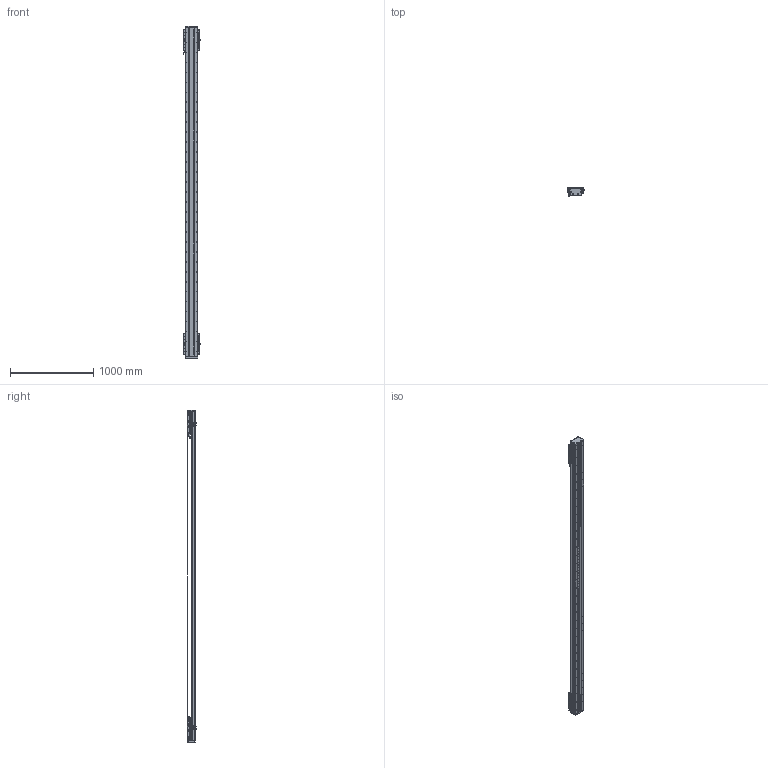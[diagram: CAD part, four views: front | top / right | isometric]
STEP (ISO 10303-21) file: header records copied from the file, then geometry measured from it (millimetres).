
FILE_DESCRIPTION (( 'STEP AP203' ), '1' );
FILE_NAME ('DA-C145-2-C3-T3380-C010-0.2 眻盄萇儂.STEP', '2025-08-14T00:41:28', ( '' ), ( '' ), 'SwSTEP 2.0', 'SolidWorks 2019', '' );
FILE_SCHEMA (( 'CONFIG_CONTROL_DESIGN' ));
Length unit declared in the file: millimetre
Products named in the file (38): 葩璃 DA145-C3-DP-B-00 菜えB^CU145-W 幗紩賑怢; TAY01-M8; 葩璃 PM-T45^DA-C145-2-C3-T-C010-0.2; 葩璃 CU145 詩湍郪璃^DA-C145-2-C3-T-C010-0.2; 复件 DA145-C3-YB-B-00 压板B^CU145-W 滚珠滑台; 葩璃 CKM03-W060-C1C2-TP-0.2^DA-C145-2-C3-T-C010-0.2; 复件 DA145-DG 钢带端盖^复件 CU145 钢带组件_DA-C145-2-C3-T-C010-0.2; 复件 DA145-C3-DK-00 挡块^CU145-W 滚珠滑台; 葩璃 DMA-010-0.2 黍杅芛^DA-C145-2-C3-T-C010-0.2; 复件 DA95-HK-GT-00 滑块钢轨^CU145-W-00 一体化滑动台板; 复件 DA95-DB-00  挡板^CU145-W 滚珠滑台; CU145-W 幗紩賑怢; 葩璃 DA145-C3-DP-A-00 菜えA^CU145-W 幗紩賑怢; 葩璃 DA95-GT-T-00^IU-CU145-L 菁釱絳寢; 复件 DA145-C3-YB-A-00 压板A^CU145-W 滚珠滑台; DA-C145-2-C3-T3380-C010-0.2 眻盄萇儂; CU145-W-00 珨极趙賑雄怢啣; DKW-KGZ-ZJ-00 中间光电开关支架; 复件 DA145-GYP-00 光电感应片^DA-C145-2-C3-T-C010-0.2; 葩璃 PM-Y65^DA-C145-2-C3-T-C010-0.2; IU-CU145-L-00 菁釱(L3960); DKW168-HXJ-ZJ-00 笢潔滅袉砎蝶; CU145-W 幗紩賑怢-1; CU145-W-00 珨极趙賑雄怢啣-1; 66245-CU145-HT-W-00 賑雄怢啣(3D芞祧)(00); 复件 半圆头内六角螺钉 M3×6^CU145-W 滚珠滑台; 复件 DA95-MFP-01 密封片^CU145-W 滚珠滑台; 复件 DA146 钢带垫块^复件 CU145 钢带组件_DA-C145-2-C3-T-C010-0.2; 复件 DA146 钢带拉块^复件 CU145 钢带组件_DA-C145-2-C3-T-C010-0.2; 复件 DA145 钢带^复件 CU145 钢带组件_DA-C145-2-C3-T-C010-0.2; 葩璃 鞠褒情蹟譫 M3^DA-C145-2-C3-T-C010-0.2; 葩璃 DA95-HXJ-00 遣喳砎蝶^DA-C145-2-C3-T-C010-0.2; 葩璃 CKMA01-W060-TRL^DA-C145-2-C3-T-C010-0.2; IU-CU145-L 菁釱絳寢; DKW-GYP-ZJ-00 笢潔嫖萇覜茼え; 复件 纯铜油杯 6x6mm^CU145-W 滚珠滑台; 复件 内六角平端紧定螺钉 GB.T77-2000 M5×10^CU145-W 滚珠滑台; 葩璃 XD-U-02L 棠掑喜^DA-C145-2-C3-T-C010-0.2
Assembly tree (180 placements, depth 4):
  DA-C145-2-C3-T3380-C010-0.2 眻盄萇儂
    IU-CU145-L 菁釱絳寢
      IU-CU145-L-00 菁釱(L3960)
      葩璃 DA95-GT-T-00^IU-CU145-L 菁釱絳寢  x4
    葩璃 CU145 詩湍郪璃^DA-C145-2-C3-T-C010-0.2
      复件 DA145-DG 钢带端盖^复件 CU145 钢带组件_DA-C145-2-C3-T-C010-0.2  x2
      复件 DA146 钢带拉块^复件 CU145 钢带组件_DA-C145-2-C3-T-C010-0.2  x2
      复件 DA146 钢带垫块^复件 CU145 钢带组件_DA-C145-2-C3-T-C010-0.2  x2
      复件 DA145 钢带^复件 CU145 钢带组件_DA-C145-2-C3-T-C010-0.2
    CU145-W 幗紩賑怢
      CU145-W-00 珨极趙賑雄怢啣
        66245-CU145-HT-W-00 賑雄怢啣(3D芞祧)(00)
        复件 DA95-HK-GT-00 滑块钢轨^CU145-W-00 一体化滑动台板  x8
      复件 DA95-MFP-01 密封片^CU145-W 滚珠滑台  x8
      复件 DA95-DB-00  挡板^CU145-W 滚珠滑台  x8
      复件 内六角平端紧定螺钉 GB.T77-2000 M5×10^CU145-W 滚珠滑台  x4
      复件 纯铜油杯 6x6mm^CU145-W 滚珠滑台  x4
      复件 半圆头内六角螺钉 M3×6^CU145-W 滚珠滑台  x16
      复件 DA145-C3-DK-00 挡块^CU145-W 滚珠滑台  x4
      葩璃 DA145-C3-DP-B-00 菜えB^CU145-W 幗紩賑怢  x2
      复件 DA145-C3-YB-B-00 压板B^CU145-W 滚珠滑台  x2
      葩璃 DA145-C3-DP-A-00 菜えA^CU145-W 幗紩賑怢  x3
      复件 DA145-C3-YB-A-00 压板A^CU145-W 滚珠滑台  x3
      TAY01-M8  x4
    CU145-W 幗紩賑怢-1
      CU145-W-00 珨极趙賑雄怢啣-1
        66245-CU145-HT-W-00 賑雄怢啣(3D芞祧)(00)
        复件 DA95-HK-GT-00 滑块钢轨^CU145-W-00 一体化滑动台板  x8
      复件 DA95-MFP-01 密封片^CU145-W 滚珠滑台  x8
      复件 DA95-DB-00  挡板^CU145-W 滚珠滑台  x8
      复件 内六角平端紧定螺钉 GB.T77-2000 M5×10^CU145-W 滚珠滑台  x4
      复件 纯铜油杯 6x6mm^CU145-W 滚珠滑台  x4
      复件 半圆头内六角螺钉 M3×6^CU145-W 滚珠滑台  x16
      复件 DA145-C3-DK-00 挡块^CU145-W 滚珠滑台  x4
      葩璃 DA145-C3-DP-B-00 菜えB^CU145-W 幗紩賑怢  x2
      复件 DA145-C3-YB-B-00 压板B^CU145-W 滚珠滑台  x2
      葩璃 DA145-C3-DP-A-00 菜えA^CU145-W 幗紩賑怢  x3
      复件 DA145-C3-YB-A-00 压板A^CU145-W 滚珠滑台  x3
      TAY01-M8  x4
    葩璃 CKMA01-W060-TRL^DA-C145-2-C3-T-C010-0.2
    葩璃 PM-T45^DA-C145-2-C3-T-C010-0.2  x4
    葩璃 XD-U-02L 棠掑喜^DA-C145-2-C3-T-C010-0.2
    葩璃 DA95-HXJ-00 遣喳砎蝶^DA-C145-2-C3-T-C010-0.2  x4
    葩璃 CKM03-W060-C1C2-TP-0.2^DA-C145-2-C3-T-C010-0.2  x2
    葩璃 DMA-010-0.2 黍杅芛^DA-C145-2-C3-T-C010-0.2  x2
    复件 DA145-GYP-00 光电感应片^DA-C145-2-C3-T-C010-0.2  x2
    DKW-GYP-ZJ-00 笢潔嫖萇覜茼え
    DKW-KGZ-ZJ-00 中间光电开关支架
    葩璃 PM-Y65^DA-C145-2-C3-T-C010-0.2
    葩璃 鞠褒情蹟譫 M3^DA-C145-2-C3-T-C010-0.2  x8
    DKW168-HXJ-ZJ-00 笢潔滅袉砎蝶
Bounding box: 213.7 x 108.45 x 3996 mm (x, y, z)
Volume: 19571731.5 mm3; surface area: 6444992.7 mm2
Topology: 175 solids, 239 shells, 8106 faces, 22749 edges, 14185 vertices
Faces by surface type: cylinder 3793, plane 2973, cone 1184, torus 140, sphere 8, bspline 8
Entity records: 173236 total; most frequent: CARTESIAN_POINT 54080, ORIENTED_EDGE 24184, DIRECTION 22253, EDGE_CURVE 12092, AXIS2_PLACEMENT_3D 8245, VERTEX_POINT 7884, LINE 5763, VECTOR 5763
